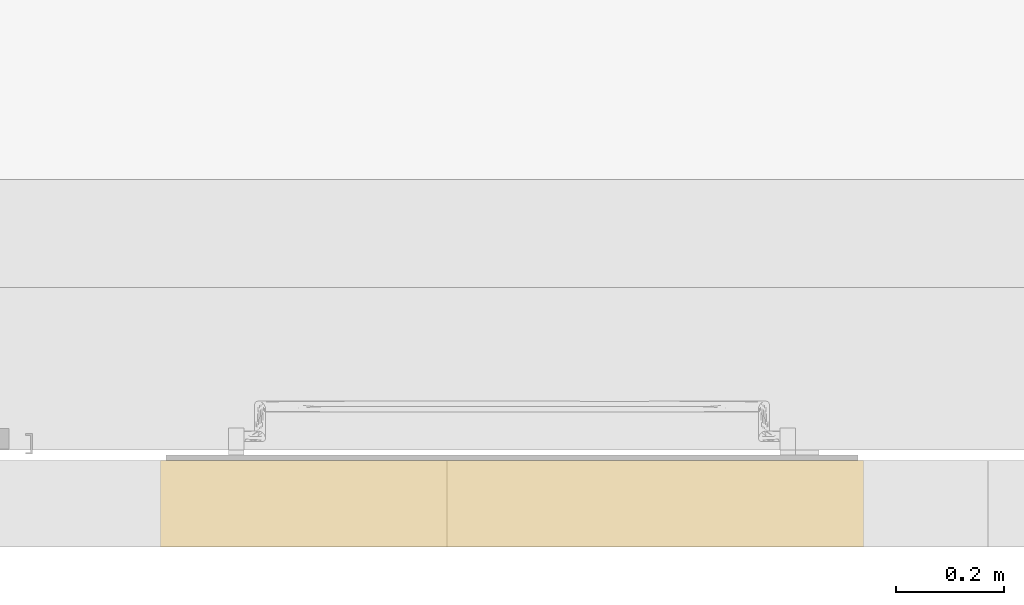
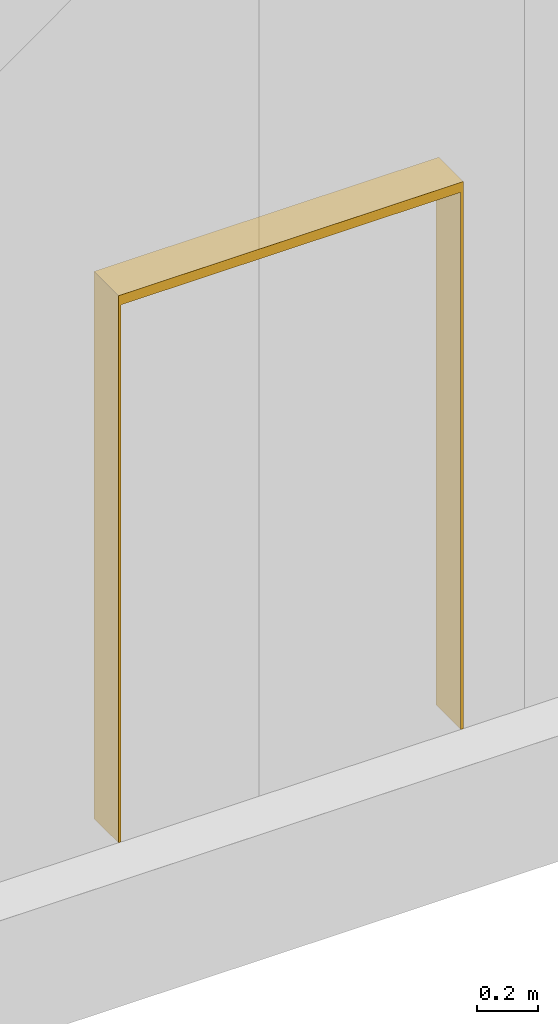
# One storey, part 226 of 302: 1 curtain wall, 1 opening, 1 element without a shape of its own.
"""IFC2X3 building model written with IfcOpenShell, lengths in metres."""

import ifcopenshell
import ifcopenshell.guid

model = None  # the IFC model being written
_history = None  # IfcOwnerHistory: only IFC2X3 demands one
_inside = {}  # id of a spatial element -> (the spatial element, [elements in it])
_under = {}  # id of a project, library or spatial element -> (it, [spatial elements below it])
_declared = {}  # id of a project -> (the project, [libraries it declares])
_typed = {}  # id of a type object -> (the type object, [elements of that type])
_made_of = {}  # id of a material, layer set ... -> (it, [elements and type objects made of it])


def new_model(schema):
    """Start an empty IFC model of exactly this schema.

    Asked for "IFC4X3", IfcOpenShell would pick the latest addendum, in which some entities
    have other attributes; the version numbers below select the first issue.
    IFC2X3 requires an IfcOwnerHistory on every rooted entity: one is made here for all.
    """
    global model, _history
    if schema == "IFC4X3":
        model = ifcopenshell.file(schema_version=(4, 3, 0, 0))
    else:
        model = ifcopenshell.file(schema=schema)
    _inside.clear()
    _under.clear()
    _declared.clear()
    _typed.clear()
    _made_of.clear()
    _history = None
    if model.schema == "IFC2X3":
        org = make("IfcOrganization", Name="unknown")
        user = make(
            "IfcPersonAndOrganization",
            ThePerson=make("IfcPerson", FamilyName="unknown"),
            TheOrganization=org,
        )
        app = make(
            "IfcApplication",
            ApplicationDeveloper=org,
            Version="unknown",
            ApplicationFullName="unknown",
            ApplicationIdentifier="unknown",
        )
        _history = make(
            "IfcOwnerHistory",
            OwningUser=user,
            OwningApplication=app,
            ChangeAction="ADDED",
            CreationDate=0,
        )
    return model


def make(cls, **values):
    """One entity of the class cls with the attributes given. An attribute that is None is left unset."""
    return model.create_entity(
        cls, **{name: value for name, value in values.items() if value is not None}
    )


def entity(cls, *values):
    """Any entity or typed value of the class cls, its attributes in the order of the schema. None: left unset."""
    e = model.create_entity(cls)
    for i, value in enumerate(values):
        if value is not None:
            e[i] = value
    return e


def rooted(cls, **values):
    """An entity with a GlobalId (a new one), such as an element, a storey or a relation."""
    return make(cls, GlobalId=ifcopenshell.guid.new(), OwnerHistory=_history, **values)


def si_unit(unit_type, name, prefix=None):
    """IfcSIUnit, for example si_unit("LENGTHUNIT", "METRE", prefix="MILLI")."""
    return make("IfcSIUnit", UnitType=unit_type, Prefix=prefix, Name=name)


def converted_unit(unit_type, name, factor, base, dimensions=None, offset=None):
    """IfcConversionBasedUnit, such as the inch: factor (a typed value) times the base unit."""
    return make(
        "IfcConversionBasedUnit"
        if offset is None
        else "IfcConversionBasedUnitWithOffset",
        ConversionOffset=offset,
        Dimensions=None
        if dimensions is None
        else entity("IfcDimensionalExponents", *dimensions),
        UnitType=unit_type,
        Name=name,
        ConversionFactor=make(
            "IfcMeasureWithUnit", ValueComponent=factor, UnitComponent=base
        ),
    )


def derived_unit(unit_type, elements):
    """IfcDerivedUnit: a product of units, each with its exponent."""
    return make(
        "IfcDerivedUnit",
        Elements=[
            make("IfcDerivedUnitElement", Unit=unit, Exponent=power)
            for unit, power in elements
        ],
        UnitType=unit_type,
    )


def assignment(units):
    """IfcUnitAssignment: the units of a project."""
    return None if units is None else make("IfcUnitAssignment", Units=units)


def point(xyz):
    """IfcCartesianPoint."""
    return None if xyz is None else make("IfcCartesianPoint", Coordinates=xyz)


def direction(xyz):
    """IfcDirection."""
    return None if xyz is None else make("IfcDirection", DirectionRatios=xyz)


def frame(location, z_axis=None, x_axis=None):
    """IfcAxis2Placement3D, a coordinate frame: its origin and axes. An axis left out is left unset."""
    return make(
        "IfcAxis2Placement3D",
        Location=point(location),
        Axis=direction(z_axis),
        RefDirection=direction(x_axis),
    )


def frame_2d(location, x_axis=None):
    """IfcAxis2Placement2D, a coordinate frame in the plane: its origin and x axis."""
    return make(
        "IfcAxis2Placement2D", Location=point(location), RefDirection=direction(x_axis)
    )


def origin():
    """The frame at (0, 0, 0) with its axes left unset."""
    return frame((0.0, 0.0, 0.0))


def place(relative_to, where):
    """IfcLocalPlacement: puts the frame where relative to a parent placement (None: the world)."""
    return make(
        "IfcLocalPlacement", PlacementRelTo=relative_to, RelativePlacement=where
    )


def context(
    kind, dimensions, precision=None, world=None, true_north=None, identifier=None
):
    """IfcGeometricRepresentationContext, for example the 3D "Model" context."""
    return make(
        "IfcGeometricRepresentationContext",
        ContextIdentifier=identifier,
        ContextType=kind,
        CoordinateSpaceDimension=dimensions,
        Precision=precision,
        WorldCoordinateSystem=world,
        TrueNorth=true_north,
    )


def subcontext(parent, identifier, kind, view, scale=None):
    """IfcGeometricRepresentationSubContext, for example "Body" below "Model"."""
    return make(
        "IfcGeometricRepresentationSubContext",
        ContextIdentifier=identifier,
        ContextType=kind,
        ParentContext=parent,
        TargetScale=scale,
        TargetView=view,
    )


def project(units=None, contexts=None):
    """IfcProject with its units and contexts."""
    return rooted(
        "IfcProject",
        Name="project",
        RepresentationContexts=contexts,
        UnitsInContext=assignment(units),
    )


def spatial(cls, under=None, at=None, **own):
    """A site, building, storey or space (cls), placed at a placement, below another one or the project."""
    s = rooted(cls, ObjectPlacement=at, **own)
    if under is not None:
        _under.setdefault(under.id(), (under, []))[1].append(s)
    return s


def profile(cls, at=None, kind="AREA", **sizes):
    """A parametric profile (cls). Its sizes go by their IFC names, for example OverallWidth=200.0."""
    return make(cls, ProfileType=kind, Position=at, **sizes)


def rectangle(**sizes):
    """IfcRectangleProfileDef."""
    return profile("IfcRectangleProfileDef", **sizes)


def extrude(swept, where, along, depth):
    """IfcExtrudedAreaSolid: the profile swept, set in the frame where, extruded along a direction by depth."""
    return make(
        "IfcExtrudedAreaSolid",
        SweptArea=swept,
        Position=where,
        ExtrudedDirection=direction(along),
        Depth=depth,
    )


def shape(context_of_items, identifier, shape_type, items):
    """IfcShapeRepresentation: the items that make up one representation, for example the "Body"."""
    return make(
        "IfcShapeRepresentation",
        ContextOfItems=context_of_items,
        RepresentationIdentifier=identifier,
        RepresentationType=shape_type,
        Items=items,
    )


def material(Name=None, Category=None):
    """IfcMaterial."""
    return make("IfcMaterial", Name=Name, Category=Category)


def layer(
    of_material, thickness, ventilated=None, Name=None, Category=None, Priority=None
):
    """IfcMaterialLayer: one layer of a wall or slab, of a material (None: an air gap)."""
    return make(
        "IfcMaterialLayer",
        Material=of_material,
        LayerThickness=thickness,
        IsVentilated=ventilated,
        Name=Name,
        Category=Category,
        Priority=Priority,
    )


def layer_set(layers, Name=None):
    """IfcMaterialLayerSet."""
    return make("IfcMaterialLayerSet", MaterialLayers=layers, LayerSetName=Name)


def layer_usage(for_layer_set, set_direction, sense, offset, extent=None):
    """IfcMaterialLayerSetUsage: how a layer set lies in its element."""
    return make(
        "IfcMaterialLayerSetUsage",
        ForLayerSet=for_layer_set,
        LayerSetDirection=set_direction,
        DirectionSense=sense,
        OffsetFromReferenceLine=offset,
        ReferenceExtent=extent,
    )


def made_of(thing, what):
    """Note that an element or type object is made of a material, layer set ...; save() writes the relation."""
    if what is not None:
        _made_of.setdefault(what.id(), (what, []))[1].append(thing)
    return thing


def type_object(cls, material=None, **own):
    """A type object (cls), such as IfcWallType, which elements share."""
    return made_of(rooted(cls, **own), material)


def element(
    cls,
    number,
    at=None,
    inside=None,
    cuts=None,
    type_object=None,
    material=None,
    context=None,
    identifier="Body",
    shape_type=None,
    held_by="IfcProductDefinitionShape",
    body=None,
    shapes=None,
    **own,
):
    """One element of the class cls, such as IfcWall. Its Tag is "e" and its number.

    at: its placement. inside: the storey or other place that contains it. cuts: it is an
    opening in that element (IfcRelVoidsElement). A single representation is given by context,
    identifier, shape_type and body (its items); several are given by shapes. held_by: the class
    of the entity that holds the representations. save() writes the other relations.
    """
    e = rooted(cls, Tag="e%d" % number, ObjectPlacement=at, **own)
    if body is not None:
        shapes = [shape(context, identifier, shape_type, body)]
    if shapes is not None:
        e.Representation = make(held_by, Representations=shapes)
    if inside is not None:
        _inside.setdefault(inside.id(), (inside, []))[1].append(e)
    if cuts is not None:
        rooted(
            "IfcRelVoidsElement", RelatingBuildingElement=cuts, RelatedOpeningElement=e
        )
    if type_object is not None:
        _typed.setdefault(type_object.id(), (type_object, []))[1].append(e)
    return made_of(e, material)


def aggregate(whole, parts):
    """IfcRelAggregates: a whole, such as a stair, and the parts it consists of."""
    return rooted("IfcRelAggregates", RelatingObject=whole, RelatedObjects=parts)


def save(model, path):
    """Write the relations noted so far, then the file.

    IfcRelAggregates (storeys below a building ...), IfcRelContainedInSpatialStructure (elements
    in a storey), IfcRelDefinesByType, IfcRelAssociatesMaterial and IfcRelDeclares: one each for
    every whole, place, type object, material and project.
    """
    for whole, parts in _under.values():
        aggregate(whole, parts)
    for where, things in _inside.values():
        rooted(
            "IfcRelContainedInSpatialStructure",
            RelatedElements=things,
            RelatingStructure=where,
        )
    for kind, things in _typed.values():
        rooted("IfcRelDefinesByType", RelatedObjects=things, RelatingType=kind)
    for what, things in _made_of.values():
        rooted("IfcRelAssociatesMaterial", RelatedObjects=things, RelatingMaterial=what)
    for by, libraries in _declared.values():
        rooted("IfcRelDeclares", RelatingContext=by, RelatedDefinitions=libraries)
    model.write(path)


model = new_model("IFC2X3")

# Units and contexts
model_context = context("Model", 3, precision=1e-05, world=origin(), true_north=direction((6.12303176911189e-17, 1.0)))
body_context = subcontext(model_context, "Body", "Model", "MODEL_VIEW")
ifc_project = project(units=[si_unit("LENGTHUNIT", "METRE"), si_unit("AREAUNIT", "SQUARE_METRE"), si_unit("VOLUMEUNIT", "CUBIC_METRE"), converted_unit("PLANEANGLEUNIT", "DEGREE", entity("IfcRatioMeasure", 0.0174532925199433), si_unit("PLANEANGLEUNIT", "RADIAN"), dimensions=[0, 0, 0, 0, 0, 0, 0]), si_unit("MASSUNIT", "GRAM", prefix="KILO"), derived_unit("MASSDENSITYUNIT", [(si_unit("MASSUNIT", "GRAM", prefix="KILO"), 1), (si_unit("LENGTHUNIT", "METRE"), -3)]), derived_unit("MOMENTOFINERTIAUNIT", [(si_unit("LENGTHUNIT", "METRE"), 4)]), si_unit("TIMEUNIT", "SECOND"), si_unit("FREQUENCYUNIT", "HERTZ"), si_unit("THERMODYNAMICTEMPERATUREUNIT", "DEGREE_CELSIUS"), derived_unit("THERMALTRANSMITTANCEUNIT", [(si_unit("MASSUNIT", "GRAM", prefix="KILO"), 1), (si_unit("THERMODYNAMICTEMPERATUREUNIT", "KELVIN"), -1), (si_unit("TIMEUNIT", "SECOND"), -3)]), derived_unit("VOLUMETRICFLOWRATEUNIT", [(si_unit("LENGTHUNIT", "METRE"), 3), (si_unit("TIMEUNIT", "SECOND"), -1)]), si_unit("ELECTRICCURRENTUNIT", "AMPERE"), si_unit("ELECTRICVOLTAGEUNIT", "VOLT"), si_unit("POWERUNIT", "WATT"), si_unit("FORCEUNIT", "NEWTON", prefix="KILO"), si_unit("ILLUMINANCEUNIT", "LUX"), si_unit("LUMINOUSFLUXUNIT", "LUMEN"), si_unit("LUMINOUSINTENSITYUNIT", "CANDELA"), derived_unit("USERDEFINED", [(si_unit("MASSUNIT", "GRAM", prefix="KILO"), -1), (si_unit("LENGTHUNIT", "METRE"), -2), (si_unit("TIMEUNIT", "SECOND"), 3), (si_unit("LUMINOUSFLUXUNIT", "LUMEN"), 1)]), derived_unit("LINEARVELOCITYUNIT", [(si_unit("LENGTHUNIT", "METRE"), 1), (si_unit("TIMEUNIT", "SECOND"), -1)]), si_unit("PRESSUREUNIT", "PASCAL"), derived_unit("USERDEFINED", [(si_unit("LENGTHUNIT", "METRE"), -2), (si_unit("MASSUNIT", "GRAM", prefix="KILO"), 1), (si_unit("TIMEUNIT", "SECOND"), -2)]), derived_unit("LINEARFORCEUNIT", [(si_unit("MASSUNIT", "GRAM", prefix="KILO"), 1), (si_unit("LENGTHUNIT", "METRE"), 1), (si_unit("TIMEUNIT", "SECOND"), -2), (si_unit("LENGTHUNIT", "METRE"), -1)]), derived_unit("PLANARFORCEUNIT", [(si_unit("MASSUNIT", "GRAM", prefix="KILO"), 1), (si_unit("LENGTHUNIT", "METRE"), 1), (si_unit("TIMEUNIT", "SECOND"), -2), (si_unit("LENGTHUNIT", "METRE"), -2)])], contexts=[model_context])

# Site, building, storey
site_placement = place(None, origin())
site = spatial("IfcSite", under=ifc_project, at=site_placement, Name="Default", CompositionType="ELEMENT")
building_placement = place(site_placement, origin())
building = spatial("IfcBuilding", under=site, at=building_placement, CompositionType="ELEMENT")
storey_placement = place(building_placement, frame((0.0, 0.0, -1.3)))
storey = spatial("IfcBuildingStorey", under=building, at=storey_placement, Name="00_EG", CompositionType="ELEMENT", Elevation=-1.3)

# Curtain walls, opening
curtain_wall_type_1 = type_object("IfcCurtainWallType", Name="Fassade:Sandwichpaneele 16cm", PredefinedType="NOTDEFINED")
curtain_wall_1_placement = place(storey_placement, frame((0.0, 0.0, 1.3)))
curtain_wall_1 = element("IfcCurtainWall", 1, at=curtain_wall_1_placement, inside=storey, type_object=curtain_wall_type_1, Name="Fassade:Sandwichpaneele 16cm", ObjectType="Fassade:Sandwichpaneele 16cm")
ifc_material_1 = material(Name="Prepainted_Steel-ArcelorMittal_Construction_HAIRULTRA-35-CORAL-4309-[RAL_3000]")
ifc_layer_1 = layer(ifc_material_1, 0.015)
ifc_material_2 = material(Name="ArcelorMittal-MineralWool")
ifc_layer_2 = layer(ifc_material_2, 0.13)
ifc_material_3 = material(Name="Prepainted_Steel-ArcelorMittal_Construction_INTÉRIEUR-12-WHITE-912")
ifc_layer_3 = layer(ifc_material_3, 0.015)
ifc_layer_set = layer_set([ifc_layer_1, ifc_layer_2, ifc_layer_3], Name="Fassade:Sandwichpaneele 16cm")
ifc_layer_usage = layer_usage(ifc_layer_set, "AXIS2", "POSITIVE", -0.08)
curtain_wall_type_2 = type_object("IfcCurtainWallType", Name="Basiswand:Sandwichpaneele d = 16cm aussen", PredefinedType="NOTDEFINED", material=ifc_layer_set)
curtain_wall_2_placement = place(storey_placement, frame((-212.370111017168, 14.898088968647, 1.27)))
curtain_wall_2 = element("IfcCurtainWall", 2, at=curtain_wall_2_placement, type_object=curtain_wall_type_2, material=ifc_layer_usage, Name="Basiswand:Sandwichpaneele d = 16cm aussen", ObjectType="Basiswand:Sandwichpaneele d = 16cm aussen", context=body_context, shape_type="SweptSolid", body=[
    extrude(rectangle(XDim=1.29999999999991, YDim=0.159999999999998, at=frame_2d((0.649999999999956, 0.0), x_axis=(-1.0, 0.0))), origin(), (0.0, 0.0, 1.0), 2.18),
])
opening_placement = place(curtain_wall_2_placement, frame((212.370111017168, -14.898088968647, -1.27)))
element("IfcOpeningElement", 3, at=opening_placement, cuts=curtain_wall_2, Name="Basiswand:Sandwichpaneele d = 16cm aussen", ObjectType="Opening", context=body_context, shape_type="SweptSolid", body=[
    extrude(rectangle(XDim=2.16999999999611, YDim=1.27999999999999, at=frame_2d((-1.73194791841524e-14, 4.44089209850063e-16), x_axis=(0.0, 1.0))), frame((-211.720111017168, 14.8180889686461, 2.32499999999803), z_axis=(0.0, 1.0, 0.0), x_axis=(1.0, 0.0, 0.0)), (0.0, 0.0, 1.0), 0.160000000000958),
])
aggregate(curtain_wall_1, [curtain_wall_2])

save(model, "model.ifc")
